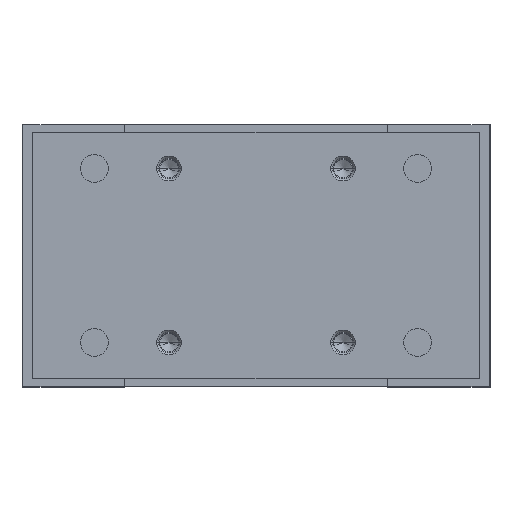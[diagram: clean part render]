
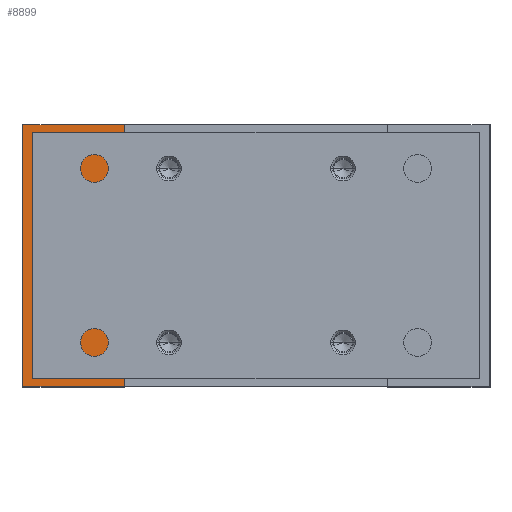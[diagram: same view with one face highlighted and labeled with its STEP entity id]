
A CAD part, top view. The second image highlights one B-rep face of the part: STEP entity #8899.
In plain terms, the highlighted planar face has unit normal (0, 0, 1).
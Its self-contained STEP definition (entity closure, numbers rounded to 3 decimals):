
#385 = FACE_OUTER_BOUND ( 'NONE', #837, .T. ) ;
#400 = LINE ( 'NONE', #6854, #9182 ) ;
#720 = EDGE_CURVE ( 'NONE', #5227, #8653, #4032, .T. ) ;
#837 = EDGE_LOOP ( 'NONE', ( #7892, #7193, #5165, #3213 ) ) ;
#1103 = ORIENTED_EDGE ( 'NONE', *, *, #7806, .F. ) ;
#1138 = EDGE_LOOP ( 'NONE', ( #1103, #2422 ) ) ;
#1245 = VERTEX_POINT ( 'NONE', #7048 ) ;
#1523 = CARTESIAN_POINT ( 'NONE',  ( -76., -42.5, 71. ) ) ;
#1970 = AXIS2_PLACEMENT_3D ( 'NONE', #4298, #6662, #9881 ) ;
#2018 = DIRECTION ( 'NONE',  ( 0., 0., -1. ) ) ;
#2053 = EDGE_CURVE ( 'NONE', #5290, #1245, #6533, .T. ) ;
#2189 = CARTESIAN_POINT ( 'NONE',  ( -42.75, -42.5, 71. ) ) ;
#2422 = ORIENTED_EDGE ( 'NONE', *, *, #2053, .F. ) ;
#3213 = ORIENTED_EDGE ( 'NONE', *, *, #8153, .F. ) ;
#3622 = PLANE ( 'NONE',  #8518 ) ;
#4032 = LINE ( 'NONE', #1523, #10284 ) ;
#4034 = EDGE_CURVE ( 'NONE', #9867, #9540, #9538, .T. ) ;
#4298 = CARTESIAN_POINT ( 'NONE',  ( -59.5, 0., 71. ) ) ;
#4635 = AXIS2_PLACEMENT_3D ( 'NONE', #10311, #10110, #6141 ) ;
#4870 = DIRECTION ( 'NONE',  ( 1., 0., 0. ) ) ;
#5156 = FACE_BOUND ( 'NONE', #1138, .T. ) ;
#5165 = ORIENTED_EDGE ( 'NONE', *, *, #720, .T. ) ;
#5227 = VERTEX_POINT ( 'NONE', #6824 ) ;
#5264 = DIRECTION ( 'NONE',  ( 0., -1., 0. ) ) ;
#5290 = VERTEX_POINT ( 'NONE', #7566 ) ;
#6108 = DIRECTION ( 'NONE',  ( 0., -1., 0. ) ) ;
#6141 = DIRECTION ( 'NONE',  ( 1., 0., 0. ) ) ;
#6212 = CARTESIAN_POINT ( 'NONE',  ( -76., 42.5, 71. ) ) ;
#6224 = CARTESIAN_POINT ( 'NONE',  ( -75.7, 42.5, 71. ) ) ;
#6533 = CIRCLE ( 'NONE', #1970, 10. ) ;
#6662 = DIRECTION ( 'NONE',  ( 0., 0., 1. ) ) ;
#6805 = CIRCLE ( 'NONE', #4635, 10. ) ;
#6824 = CARTESIAN_POINT ( 'NONE',  ( -75.7, -42.5, 71. ) ) ;
#6854 = CARTESIAN_POINT ( 'NONE',  ( -75.7, 85., 71. ) ) ;
#6972 = CARTESIAN_POINT ( 'NONE',  ( -42.75, 42.5, 71. ) ) ;
#7048 = CARTESIAN_POINT ( 'NONE',  ( -69.5, 0., 71. ) ) ;
#7193 = ORIENTED_EDGE ( 'NONE', *, *, #10450, .T. ) ;
#7566 = CARTESIAN_POINT ( 'NONE',  ( -49.5, 0., 71. ) ) ;
#7806 = EDGE_CURVE ( 'NONE', #1245, #5290, #6805, .T. ) ;
#7892 = ORIENTED_EDGE ( 'NONE', *, *, #4034, .F. ) ;
#8153 = EDGE_CURVE ( 'NONE', #9540, #8653, #9350, .T. ) ;
#8518 = AXIS2_PLACEMENT_3D ( 'NONE', #9266, #2018, #5264 ) ;
#8561 = DIRECTION ( 'NONE',  ( 0., -1., 0. ) ) ;
#8653 = VERTEX_POINT ( 'NONE', #2189 ) ;
#8899 = ADVANCED_FACE ( 'NONE', ( #385, #5156 ), #3622, .F. ) ;
#9009 = VECTOR ( 'NONE', #8561, 1000. ) ;
#9182 = VECTOR ( 'NONE', #6108, 1000. ) ;
#9266 = CARTESIAN_POINT ( 'NONE',  ( -76., 42.5, 71. ) ) ;
#9350 = LINE ( 'NONE', #6972, #9009 ) ;
#9385 = DIRECTION ( 'NONE',  ( 1., 0., 0. ) ) ;
#9538 = LINE ( 'NONE', #6212, #9852 ) ;
#9540 = VERTEX_POINT ( 'NONE', #10410 ) ;
#9852 = VECTOR ( 'NONE', #9385, 1000. ) ;
#9867 = VERTEX_POINT ( 'NONE', #6224 ) ;
#9881 = DIRECTION ( 'NONE',  ( 1., 0., 0. ) ) ;
#10110 = DIRECTION ( 'NONE',  ( 0., 0., 1. ) ) ;
#10284 = VECTOR ( 'NONE', #4870, 1000. ) ;
#10311 = CARTESIAN_POINT ( 'NONE',  ( -59.5, 0., 71. ) ) ;
#10410 = CARTESIAN_POINT ( 'NONE',  ( -42.75, 42.5, 71. ) ) ;
#10450 = EDGE_CURVE ( 'NONE', #9867, #5227, #400, .T. ) ;
